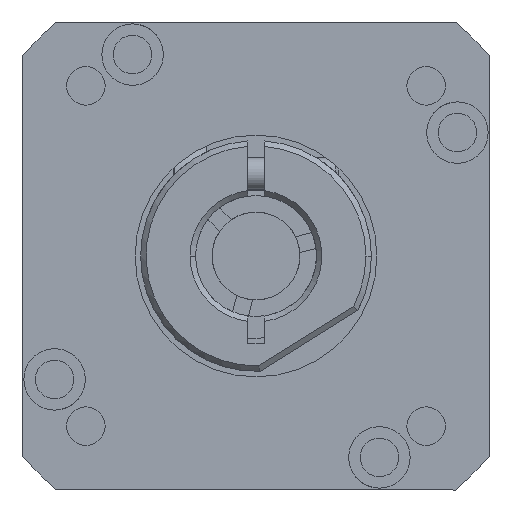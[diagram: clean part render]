
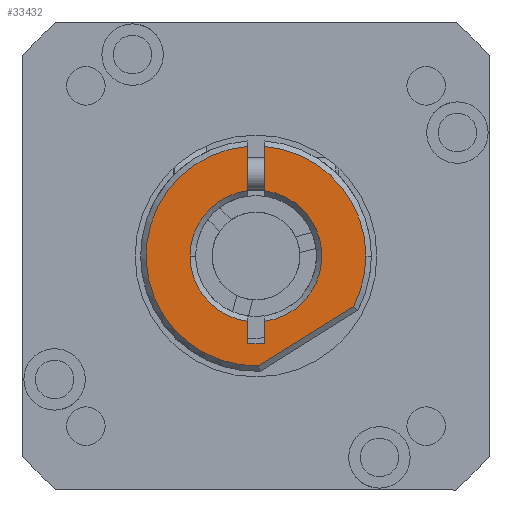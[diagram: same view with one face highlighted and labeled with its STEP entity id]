
A CAD part, left-side view. The second image highlights one B-rep face of the part: STEP entity #33432.
In plain terms, the highlighted planar face has unit normal (-1, 0, 0) as drawn and (0, -1, 0) by its records, which use the part's own axes.
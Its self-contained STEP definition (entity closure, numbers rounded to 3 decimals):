
#303 = LINE ( 'NONE', #13724, #14160 ) ;
#350 = VERTEX_POINT ( 'NONE', #14892 ) ;
#469 = EDGE_CURVE ( 'NONE', #31617, #9804, #8070, .T. ) ;
#1512 = EDGE_CURVE ( 'NONE', #15194, #8042, #2695, .T. ) ;
#1645 = VERTEX_POINT ( 'NONE', #32400 ) ;
#1947 = VECTOR ( 'NONE', #6334, 1000. ) ;
#2695 = LINE ( 'NONE', #25327, #10463 ) ;
#2958 = AXIS2_PLACEMENT_3D ( 'NONE', #29350, #13729, #31969 ) ;
#3167 = VERTEX_POINT ( 'NONE', #8756 ) ;
#3446 = CARTESIAN_POINT ( 'NONE',  ( 8., -4., -0.75 ) ) ;
#3555 = EDGE_CURVE ( 'NONE', #9804, #11148, #28719, .T. ) ;
#3602 = VERTEX_POINT ( 'NONE', #24238 ) ;
#3914 = VECTOR ( 'NONE', #4617, 1000. ) ;
#4418 = DIRECTION ( 'NONE',  ( -1., 0., 0. ) ) ;
#4617 = DIRECTION ( 'NONE',  ( 1., 0., 0. ) ) ;
#5102 = CARTESIAN_POINT ( 'NONE',  ( 5.953, -4., -0.75 ) ) ;
#6029 = PLANE ( 'NONE',  #21188 ) ;
#6183 = CARTESIAN_POINT ( 'NONE',  ( 0., -4., 0. ) ) ;
#6300 = DIRECTION ( 'NONE',  ( 0., 1., 0. ) ) ;
#6334 = DIRECTION ( 'NONE',  ( 1., 0., 0. ) ) ;
#6458 = ORIENTED_EDGE ( 'NONE', *, *, #3555, .T. ) ;
#6567 = EDGE_CURVE ( 'NONE', #8042, #3602, #20103, .T. ) ;
#7065 = CARTESIAN_POINT ( 'NONE',  ( 0., -4., 0. ) ) ;
#7253 = VECTOR ( 'NONE', #10009, 1000. ) ;
#7616 = DIRECTION ( 'NONE',  ( 0., 1., 0. ) ) ;
#7650 = CIRCLE ( 'NONE', #18586, 6. ) ;
#8042 = VERTEX_POINT ( 'NONE', #5102 ) ;
#8070 = LINE ( 'NONE', #33587, #7253 ) ;
#8671 = CARTESIAN_POINT ( 'NONE',  ( 5.5, -4., 0. ) ) ;
#8756 = CARTESIAN_POINT ( 'NONE',  ( -9.972, -4., -0.75 ) ) ;
#8821 = DIRECTION ( 'NONE',  ( 0., 0., 1. ) ) ;
#9136 = ORIENTED_EDGE ( 'NONE', *, *, #11061, .T. ) ;
#9709 = DIRECTION ( 'NONE',  ( 0., 0., 1. ) ) ;
#9742 = DIRECTION ( 'NONE',  ( 0., 1., 0. ) ) ;
#9804 = VERTEX_POINT ( 'NONE', #29863 ) ;
#9808 = ORIENTED_EDGE ( 'NONE', *, *, #19667, .T. ) ;
#9855 = VERTEX_POINT ( 'NONE', #14355 ) ;
#10009 = DIRECTION ( 'NONE',  ( -0.53, 0., 0.848 ) ) ;
#10463 = VECTOR ( 'NONE', #4418, 1000. ) ;
#10663 = EDGE_CURVE ( 'NONE', #350, #9855, #22783, .T. ) ;
#11061 = EDGE_CURVE ( 'NONE', #9855, #15194, #303, .T. ) ;
#11148 = VERTEX_POINT ( 'NONE', #26970 ) ;
#11272 = DIRECTION ( 'NONE',  ( 0., 0., -1. ) ) ;
#11293 = EDGE_CURVE ( 'NONE', #1645, #350, #7650, .T. ) ;
#11749 = ORIENTED_EDGE ( 'NONE', *, *, #6567, .T. ) ;
#11756 = VERTEX_POINT ( 'NONE', #22684 ) ;
#11798 = EDGE_CURVE ( 'NONE', #11756, #1645, #24752, .T. ) ;
#12755 = EDGE_CURVE ( 'NONE', #11148, #11756, #22269, .T. ) ;
#13169 = CARTESIAN_POINT ( 'NONE',  ( -5.953, -4., -0.75 ) ) ;
#13724 = CARTESIAN_POINT ( 'NONE',  ( 8., -4., 0. ) ) ;
#13729 = DIRECTION ( 'NONE',  ( 0., -1., 0. ) ) ;
#14160 = VECTOR ( 'NONE', #24113, 1000. ) ;
#14355 = CARTESIAN_POINT ( 'NONE',  ( 8., -4., 0.75 ) ) ;
#14376 = EDGE_CURVE ( 'NONE', #3167, #31617, #16479, .T. ) ;
#14892 = CARTESIAN_POINT ( 'NONE',  ( 5.953, -4., 0.75 ) ) ;
#15194 = VERTEX_POINT ( 'NONE', #16495 ) ;
#15246 = AXIS2_PLACEMENT_3D ( 'NONE', #23237, #7616, #25849 ) ;
#15487 = VECTOR ( 'NONE', #29660, 1000. ) ;
#16307 = ORIENTED_EDGE ( 'NONE', *, *, #469, .T. ) ;
#16479 = CIRCLE ( 'NONE', #22152, 10. ) ;
#16495 = CARTESIAN_POINT ( 'NONE',  ( 8., -4., -0.75 ) ) ;
#17444 = EDGE_CURVE ( 'NONE', #20951, #3167, #29360, .T. ) ;
#18586 = AXIS2_PLACEMENT_3D ( 'NONE', #25346, #9742, #27971 ) ;
#19087 = ORIENTED_EDGE ( 'NONE', *, *, #11798, .T. ) ;
#19327 = CARTESIAN_POINT ( 'NONE',  ( -14.792, -4., 0.75 ) ) ;
#19667 = EDGE_CURVE ( 'NONE', #3602, #20951, #30478, .T. ) ;
#20103 = CIRCLE ( 'NONE', #15246, 6. ) ;
#20720 = ORIENTED_EDGE ( 'NONE', *, *, #17444, .T. ) ;
#20951 = VERTEX_POINT ( 'NONE', #13169 ) ;
#21188 = AXIS2_PLACEMENT_3D ( 'NONE', #8671, #26922, #11272 ) ;
#21926 = CARTESIAN_POINT ( 'NONE',  ( 0., -4., 0. ) ) ;
#22001 = FACE_OUTER_BOUND ( 'NONE', #25872, .T. ) ;
#22152 = AXIS2_PLACEMENT_3D ( 'NONE', #7065, #25314, #9709 ) ;
#22269 = CIRCLE ( 'NONE', #24753, 10. ) ;
#22455 = CARTESIAN_POINT ( 'NONE',  ( 9.997, -4., 0.23 ) ) ;
#22684 = CARTESIAN_POINT ( 'NONE',  ( -9.972, -4., 0.75 ) ) ;
#22783 = LINE ( 'NONE', #19327, #1947 ) ;
#23237 = CARTESIAN_POINT ( 'NONE',  ( 0., -4., 0. ) ) ;
#23391 = ORIENTED_EDGE ( 'NONE', *, *, #11293, .T. ) ;
#24113 = DIRECTION ( 'NONE',  ( 0., 0., -1. ) ) ;
#24238 = CARTESIAN_POINT ( 'NONE',  ( 0., -4., -6. ) ) ;
#24438 = DIRECTION ( 'NONE',  ( 0., -1., 0. ) ) ;
#24539 = DIRECTION ( 'NONE',  ( 0., 0., -1. ) ) ;
#24579 = ORIENTED_EDGE ( 'NONE', *, *, #10663, .T. ) ;
#24752 = LINE ( 'NONE', #25530, #3914 ) ;
#24753 = AXIS2_PLACEMENT_3D ( 'NONE', #6183, #24438, #8821 ) ;
#25230 = ORIENTED_EDGE ( 'NONE', *, *, #12755, .T. ) ;
#25314 = DIRECTION ( 'NONE',  ( 0., -1., 0. ) ) ;
#25327 = CARTESIAN_POINT ( 'NONE',  ( 8., -4., -0.75 ) ) ;
#25346 = CARTESIAN_POINT ( 'NONE',  ( 0., -4., 0. ) ) ;
#25530 = CARTESIAN_POINT ( 'NONE',  ( -14.792, -4., 0.75 ) ) ;
#25849 = DIRECTION ( 'NONE',  ( 0., 0., -1. ) ) ;
#25872 = EDGE_LOOP ( 'NONE', ( #24579, #9136, #31563, #11749, #9808, #20720, #32067, #16307, #6458, #25230, #19087, #23391 ) ) ;
#26922 = DIRECTION ( 'NONE',  ( 0., -1., 0. ) ) ;
#26970 = CARTESIAN_POINT ( 'NONE',  ( 0., -4., 10. ) ) ;
#27971 = DIRECTION ( 'NONE',  ( 0., 0., -1. ) ) ;
#28719 = CIRCLE ( 'NONE', #2958, 10. ) ;
#29350 = CARTESIAN_POINT ( 'NONE',  ( 0., -4., 0. ) ) ;
#29360 = LINE ( 'NONE', #3446, #15487 ) ;
#29660 = DIRECTION ( 'NONE',  ( -1., 0., 0. ) ) ;
#29863 = CARTESIAN_POINT ( 'NONE',  ( 4.589, -4., 8.885 ) ) ;
#30478 = CIRCLE ( 'NONE', #32368, 6. ) ;
#31563 = ORIENTED_EDGE ( 'NONE', *, *, #1512, .T. ) ;
#31617 = VERTEX_POINT ( 'NONE', #22455 ) ;
#31969 = DIRECTION ( 'NONE',  ( 0., 0., 1. ) ) ;
#32067 = ORIENTED_EDGE ( 'NONE', *, *, #14376, .T. ) ;
#32368 = AXIS2_PLACEMENT_3D ( 'NONE', #21926, #6300, #24539 ) ;
#32400 = CARTESIAN_POINT ( 'NONE',  ( -5.953, -4., 0.75 ) ) ;
#33432 = ADVANCED_FACE ( 'NONE', ( #22001 ), #6029, .T. ) ;
#33587 = CARTESIAN_POINT ( 'NONE',  ( 9.997, -4., 0.23 ) ) ;
